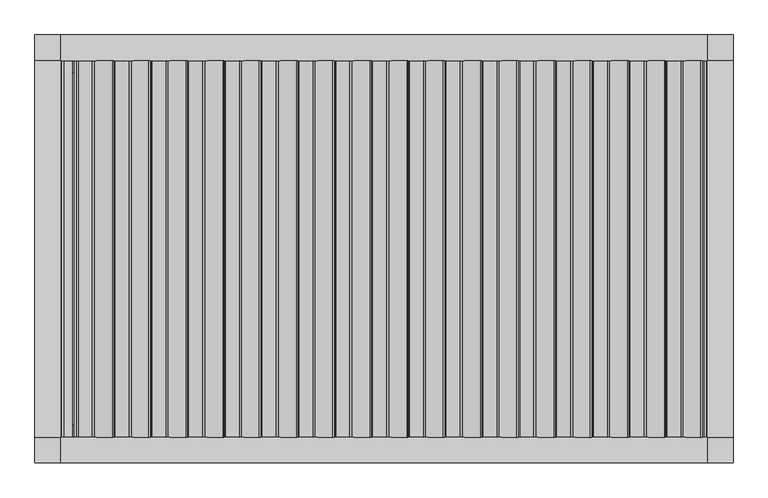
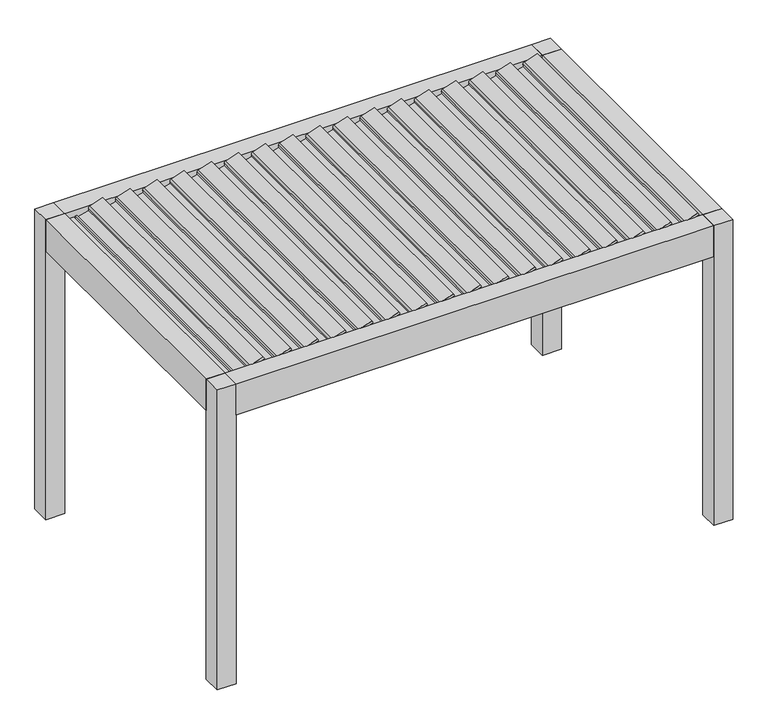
"""IFC4 building model written with IfcOpenShell, lengths in millimetres: proxy geometry, Renson_Camargue_Freestanding_Patio covers : Renson_Camargue_Freestanding_Patio covers."""

import ifcopenshell
import ifcopenshell.guid

model = None  # the IFC model being written
_history = None  # IfcOwnerHistory: only IFC2X3 demands one
_inside = {}  # id of a spatial element -> (the spatial element, [elements in it])
_under = {}  # id of a project, library or spatial element -> (it, [spatial elements below it])
_declared = {}  # id of a project -> (the project, [libraries it declares])
_typed = {}  # id of a type object -> (the type object, [elements of that type])
_made_of = {}  # id of a material, layer set ... -> (it, [elements and type objects made of it])


def new_model(schema):
    """Start an empty IFC model of exactly this schema.

    Asked for "IFC4X3", IfcOpenShell would pick the latest addendum, in which some entities
    have other attributes; the version numbers below select the first issue.
    IFC2X3 requires an IfcOwnerHistory on every rooted entity: one is made here for all.
    """
    global model, _history
    if schema == "IFC4X3":
        model = ifcopenshell.file(schema_version=(4, 3, 0, 0))
    else:
        model = ifcopenshell.file(schema=schema)
    _inside.clear()
    _under.clear()
    _declared.clear()
    _typed.clear()
    _made_of.clear()
    _history = None
    if model.schema == "IFC2X3":
        org = make("IfcOrganization", Name="unknown")
        user = make(
            "IfcPersonAndOrganization",
            ThePerson=make("IfcPerson", FamilyName="unknown"),
            TheOrganization=org,
        )
        app = make(
            "IfcApplication",
            ApplicationDeveloper=org,
            Version="unknown",
            ApplicationFullName="unknown",
            ApplicationIdentifier="unknown",
        )
        _history = make(
            "IfcOwnerHistory",
            OwningUser=user,
            OwningApplication=app,
            ChangeAction="ADDED",
            CreationDate=0,
        )
    return model


def make(cls, **values):
    """One entity of the class cls with the attributes given. An attribute that is None is left unset."""
    return model.create_entity(
        cls, **{name: value for name, value in values.items() if value is not None}
    )


def rooted(cls, **values):
    """An entity with a GlobalId (a new one), such as an element, a storey or a relation."""
    return make(cls, GlobalId=ifcopenshell.guid.new(), OwnerHistory=_history, **values)


def si_unit(unit_type, name, prefix=None):
    """IfcSIUnit, for example si_unit("LENGTHUNIT", "METRE", prefix="MILLI")."""
    return make("IfcSIUnit", UnitType=unit_type, Prefix=prefix, Name=name)


def assignment(units):
    """IfcUnitAssignment: the units of a project."""
    return None if units is None else make("IfcUnitAssignment", Units=units)


def point(xyz):
    """IfcCartesianPoint."""
    return None if xyz is None else make("IfcCartesianPoint", Coordinates=xyz)


def direction(xyz):
    """IfcDirection."""
    return None if xyz is None else make("IfcDirection", DirectionRatios=xyz)


def frame(location, z_axis=None, x_axis=None):
    """IfcAxis2Placement3D, a coordinate frame: its origin and axes. An axis left out is left unset."""
    return make(
        "IfcAxis2Placement3D",
        Location=point(location),
        Axis=direction(z_axis),
        RefDirection=direction(x_axis),
    )


def frame_2d(location, x_axis=None):
    """IfcAxis2Placement2D, a coordinate frame in the plane: its origin and x axis."""
    return make(
        "IfcAxis2Placement2D", Location=point(location), RefDirection=direction(x_axis)
    )


def origin():
    """The frame at (0, 0, 0) with its axes left unset."""
    return frame((0.0, 0.0, 0.0))


def origin_with_axes():
    """The frame at (0, 0, 0) with the z axis (0, 0, 1) and the x axis (1, 0, 0) written out."""
    return frame((0.0, 0.0, 0.0), z_axis=(0.0, 0.0, 1.0), x_axis=(1.0, 0.0, 0.0))


def place(relative_to, where):
    """IfcLocalPlacement: puts the frame where relative to a parent placement (None: the world)."""
    return make(
        "IfcLocalPlacement", PlacementRelTo=relative_to, RelativePlacement=where
    )


def context(
    kind, dimensions, precision=None, world=None, true_north=None, identifier=None
):
    """IfcGeometricRepresentationContext, for example the 3D "Model" context."""
    return make(
        "IfcGeometricRepresentationContext",
        ContextIdentifier=identifier,
        ContextType=kind,
        CoordinateSpaceDimension=dimensions,
        Precision=precision,
        WorldCoordinateSystem=world,
        TrueNorth=true_north,
    )


def project(units=None, contexts=None):
    """IfcProject with its units and contexts."""
    return rooted(
        "IfcProject",
        Name="project",
        RepresentationContexts=contexts,
        UnitsInContext=assignment(units),
    )


def spatial(cls, under=None, at=None, **own):
    """A site, building, storey or space (cls), placed at a placement, below another one or the project."""
    s = rooted(cls, ObjectPlacement=at, **own)
    if under is not None:
        _under.setdefault(under.id(), (under, []))[1].append(s)
    return s


def polyline(points):
    """IfcPolyline through the points."""
    return make("IfcPolyline", Points=[point(p) for p in points])


def circle_curve(where, radius):
    """IfcCircle in the frame where."""
    return make("IfcCircle", Position=where, Radius=radius)


def trimmed(basis, trim1, trim2, sense, master):
    """IfcTrimmedCurve: the piece of a basis curve between two trims."""
    return make(
        "IfcTrimmedCurve",
        BasisCurve=basis,
        Trim1=trim1,
        Trim2=trim2,
        SenseAgreement=sense,
        MasterRepresentation=master,
    )


def segment(curve, same_sense, transition):
    """IfcCompositeCurveSegment."""
    return make(
        "IfcCompositeCurveSegment",
        Transition=transition,
        SameSense=same_sense,
        ParentCurve=curve,
    )


def composite_curve(segments, self_intersect=None):
    """IfcCompositeCurve: segments joined end to end."""
    return make("IfcCompositeCurve", Segments=segments, SelfIntersect=self_intersect)


def outline(outer, holes=None, kind="AREA"):
    """IfcArbitraryClosedProfileDef: a profile drawn as a closed curve; with holes, ...WithVoids."""
    if holes is None:
        return make("IfcArbitraryClosedProfileDef", ProfileType=kind, OuterCurve=outer)
    return make(
        "IfcArbitraryProfileDefWithVoids",
        ProfileType=kind,
        OuterCurve=outer,
        InnerCurves=holes,
    )


def extrude(swept, where, along, depth):
    """IfcExtrudedAreaSolid: the profile swept, set in the frame where, extruded along a direction by depth."""
    return make(
        "IfcExtrudedAreaSolid",
        SweptArea=swept,
        Position=where,
        ExtrudedDirection=direction(along),
        Depth=depth,
    )


def shape(context_of_items, identifier, shape_type, items):
    """IfcShapeRepresentation: the items that make up one representation, for example the "Body"."""
    return make(
        "IfcShapeRepresentation",
        ContextOfItems=context_of_items,
        RepresentationIdentifier=identifier,
        RepresentationType=shape_type,
        Items=items,
    )


def source(mapping_origin, context_of_items, identifier, shape_type, items):
    """IfcRepresentationMap: a shape defined once, which mapped items show again and again."""
    return make(
        "IfcRepresentationMap",
        MappingOrigin=mapping_origin,
        MappedRepresentation=shape(context_of_items, identifier, shape_type, items),
    )


def transform(
    local_origin,
    x_axis=None,
    y_axis=None,
    z_axis=None,
    scale=None,
    scale2=None,
    scale3=None,
    uniform=True,
):
    """IfcCartesianTransformationOperator3D, or its non-uniform kind. x_axis, y_axis, z_axis: its Axis1, 2, 3."""
    if uniform:
        return make(
            "IfcCartesianTransformationOperator3D",
            Axis1=direction(x_axis),
            Axis2=direction(y_axis),
            LocalOrigin=point(local_origin),
            Scale=scale,
            Axis3=direction(z_axis),
        )
    return make(
        "IfcCartesianTransformationOperator3DnonUniform",
        Axis1=direction(x_axis),
        Axis2=direction(y_axis),
        LocalOrigin=point(local_origin),
        Scale=scale,
        Axis3=direction(z_axis),
        Scale2=scale2,
        Scale3=scale3,
    )


def mapped(mapping_source, mapping_target):
    """IfcMappedItem: shows the shape of a source again, moved by a transform."""
    return make(
        "IfcMappedItem", MappingSource=mapping_source, MappingTarget=mapping_target
    )


def made_of(thing, what):
    """Note that an element or type object is made of a material, layer set ...; save() writes the relation."""
    if what is not None:
        _made_of.setdefault(what.id(), (what, []))[1].append(thing)
    return thing


def element(
    cls,
    number,
    at=None,
    inside=None,
    cuts=None,
    type_object=None,
    material=None,
    context=None,
    identifier="Body",
    shape_type=None,
    held_by="IfcProductDefinitionShape",
    body=None,
    shapes=None,
    **own,
):
    """One element of the class cls, such as IfcWall. Its Tag is "e" and its number.

    at: its placement. inside: the storey or other place that contains it. cuts: it is an
    opening in that element (IfcRelVoidsElement). A single representation is given by context,
    identifier, shape_type and body (its items); several are given by shapes. held_by: the class
    of the entity that holds the representations. save() writes the other relations.
    """
    e = rooted(cls, Tag="e%d" % number, ObjectPlacement=at, **own)
    if body is not None:
        shapes = [shape(context, identifier, shape_type, body)]
    if shapes is not None:
        e.Representation = make(held_by, Representations=shapes)
    if inside is not None:
        _inside.setdefault(inside.id(), (inside, []))[1].append(e)
    if cuts is not None:
        rooted(
            "IfcRelVoidsElement", RelatingBuildingElement=cuts, RelatedOpeningElement=e
        )
    if type_object is not None:
        _typed.setdefault(type_object.id(), (type_object, []))[1].append(e)
    return made_of(e, material)


def aggregate(whole, parts):
    """IfcRelAggregates: a whole, such as a stair, and the parts it consists of."""
    return rooted("IfcRelAggregates", RelatingObject=whole, RelatedObjects=parts)


def save(model, path):
    """Write the relations noted so far, then the file.

    IfcRelAggregates (storeys below a building ...), IfcRelContainedInSpatialStructure (elements
    in a storey), IfcRelDefinesByType, IfcRelAssociatesMaterial and IfcRelDeclares: one each for
    every whole, place, type object, material and project.
    """
    for whole, parts in _under.values():
        aggregate(whole, parts)
    for where, things in _inside.values():
        rooted(
            "IfcRelContainedInSpatialStructure",
            RelatedElements=things,
            RelatingStructure=where,
        )
    for kind, things in _typed.values():
        rooted("IfcRelDefinesByType", RelatedObjects=things, RelatingType=kind)
    for what, things in _made_of.values():
        rooted("IfcRelAssociatesMaterial", RelatedObjects=things, RelatingMaterial=what)
    for by, libraries in _declared.values():
        rooted("IfcRelDeclares", RelatingContext=by, RelatedDefinitions=libraries)
    model.write(path)


def generic_models_edea96c8(model_context):
    return source(origin(), model_context, "Body", "SweptSolid", [
        extrude(outline(composite_curve([segment(polyline([(2484.4863486, 1622.3167619), (2511.83214, 1617.4949611), (2520.6331137, 1644.9891952), (2538.5732957, 1636.6235509), (2505.0004395, 1531.7419777)]), True, "CONTINUOUS"), segment(trimmed(circle_curve(frame_2d((2490.7145025, 1536.3149422)), 15.0), [point((2505.0004395, 1531.7419777))], [point((2489.4071663, 1521.3720218))], False, "CARTESIAN"), True, "CONTINUOUS"), segment(polyline([(2489.4071663, 1521.3720218), (2469.9552563, 1523.0738434), (2447.2475665, 1438.3275914), (2462.9650208, 1430.9984221), (2458.3022482, 1416.4319246), (2430.6272255, 1421.3117778), (2484.4863486, 1622.3167619)]), True, "CONTINUOUS")], self_intersect=False)), frame((0.0, -1100.0, 0.0), z_axis=(0.0, 1.0, 0.0), x_axis=(0.0, 0.0, 1.0)), (0.0, 0.0, 1.0), 2200.0),
        extrude(outline(composite_curve([segment(polyline([(2484.4863486, 1407.3059571), (2511.83214, 1402.4841563), (2520.6331137, 1429.9783904), (2538.5732957, 1421.6127462), (2505.0004395, 1316.731173)]), True, "CONTINUOUS"), segment(trimmed(circle_curve(frame_2d((2490.7145025, 1321.3041375)), 15.0), [point((2505.0004395, 1316.731173))], [point((2489.4071663, 1306.361217))], False, "CARTESIAN"), True, "CONTINUOUS"), segment(polyline([(2489.4071663, 1306.361217), (2469.9552563, 1308.0630386), (2447.2475665, 1223.3167866), (2462.9650208, 1215.9876173), (2458.3022482, 1201.4211198), (2430.6272255, 1206.300973), (2484.4863486, 1407.3059571)]), True, "CONTINUOUS")], self_intersect=False)), frame((0.0, -1100.0, 0.0), z_axis=(0.0, 1.0, 0.0), x_axis=(0.0, 0.0, 1.0)), (0.0, 0.0, 1.0), 2200.0),
        extrude(outline(composite_curve([segment(polyline([(2484.4863486, 1192.2951523), (2511.83214, 1187.4733515), (2520.6331137, 1214.9675857), (2538.5732957, 1206.6019414), (2505.0004395, 1101.7203682)]), True, "CONTINUOUS"), segment(trimmed(circle_curve(frame_2d((2490.7145025, 1106.2933327)), 15.0), [point((2505.0004395, 1101.7203682))], [point((2489.4071663, 1091.3504122))], False, "CARTESIAN"), True, "CONTINUOUS"), segment(polyline([(2489.4071663, 1091.3504122), (2469.9552563, 1093.0522338), (2447.2475665, 1008.3059819), (2462.9650208, 1000.9768125), (2458.3022482, 986.410315), (2430.6272255, 991.2901682), (2484.4863486, 1192.2951523)]), True, "CONTINUOUS")], self_intersect=False)), frame((0.0, -1100.0, 0.0), z_axis=(0.0, 1.0, 0.0), x_axis=(0.0, 0.0, 1.0)), (0.0, 0.0, 1.0), 2200.0),
        extrude(outline(composite_curve([segment(polyline([(2484.4863486, 977.2843475), (2511.83214, 972.4625467), (2520.6331137, 999.9567809), (2538.5732957, 991.5911366), (2505.0004395, 886.7095634)]), True, "CONTINUOUS"), segment(trimmed(circle_curve(frame_2d((2490.7145025, 891.2825279)), 15.0), [point((2505.0004395, 886.7095634))], [point((2489.4071663, 876.3396074))], False, "CARTESIAN"), True, "CONTINUOUS"), segment(polyline([(2489.4071663, 876.3396074), (2469.9552563, 878.041429), (2447.2475665, 793.2951771), (2462.9650208, 785.9660077), (2458.3022482, 771.3995103), (2430.6272255, 776.2793635), (2484.4863486, 977.2843475)]), True, "CONTINUOUS")], self_intersect=False)), frame((0.0, -1100.0, 0.0), z_axis=(0.0, 1.0, 0.0), x_axis=(0.0, 0.0, 1.0)), (0.0, 0.0, 1.0), 2200.0),
        extrude(outline(composite_curve([segment(polyline([(2484.4863486, 762.2735428), (2511.83214, 757.4517419), (2520.6331137, 784.9459761), (2538.5732957, 776.5803318), (2505.0004395, 671.6987586)]), True, "CONTINUOUS"), segment(trimmed(circle_curve(frame_2d((2490.7145025, 676.2717231)), 15.0), [point((2505.0004395, 671.6987586))], [point((2489.4071663, 661.3288026))], False, "CARTESIAN"), True, "CONTINUOUS"), segment(polyline([(2489.4071663, 661.3288026), (2469.9552563, 663.0306242), (2447.2475665, 578.2843723), (2462.9650208, 570.955203), (2458.3022482, 556.3887055), (2430.6272255, 561.2685587), (2484.4863486, 762.2735428)]), True, "CONTINUOUS")], self_intersect=False)), frame((0.0, -1100.0, 0.0), z_axis=(0.0, 1.0, 0.0), x_axis=(0.0, 0.0, 1.0)), (0.0, 0.0, 1.0), 2200.0),
        extrude(outline(composite_curve([segment(polyline([(2484.4863486, 547.262738), (2511.83214, 542.4409372), (2520.6331137, 569.9351713), (2538.5732957, 561.569527), (2505.0004395, 456.6879538)]), True, "CONTINUOUS"), segment(trimmed(circle_curve(frame_2d((2490.7145025, 461.2609183)), 15.0), [point((2505.0004395, 456.6879538))], [point((2489.4071663, 446.3179979))], False, "CARTESIAN"), True, "CONTINUOUS"), segment(polyline([(2489.4071663, 446.3179979), (2469.9552563, 448.0198195), (2447.2475665, 363.2735675), (2462.9650208, 355.9443982), (2458.3022482, 341.3779007), (2430.6272255, 346.2577539), (2484.4863486, 547.262738)]), True, "CONTINUOUS")], self_intersect=False)), frame((0.0, -1100.0, 0.0), z_axis=(0.0, 1.0, 0.0), x_axis=(0.0, 0.0, 1.0)), (0.0, 0.0, 1.0), 2200.0),
        extrude(outline(composite_curve([segment(polyline([(2484.4863486, 332.2519332), (2511.83214, 327.4301324), (2520.6331137, 354.9243665), (2538.5732957, 346.5587222), (2505.0004395, 241.6771491)]), True, "CONTINUOUS"), segment(trimmed(circle_curve(frame_2d((2490.7145025, 246.2501135)), 15.0), [point((2505.0004395, 241.6771491))], [point((2489.4071663, 231.3071931))], False, "CARTESIAN"), True, "CONTINUOUS"), segment(polyline([(2489.4071663, 231.3071931), (2469.9552563, 233.0090147), (2447.2475665, 148.2627627), (2462.9650208, 140.9335934), (2458.3022482, 126.3670959), (2430.6272255, 131.2469491), (2484.4863486, 332.2519332)]), True, "CONTINUOUS")], self_intersect=False)), frame((0.0, -1100.0, 0.0), z_axis=(0.0, 1.0, 0.0), x_axis=(0.0, 0.0, 1.0)), (0.0, 0.0, 1.0), 2200.0),
        extrude(outline(composite_curve([segment(polyline([(2484.4863486, 117.2411284), (2511.83214, 112.4193276), (2520.6331137, 139.9135617), (2538.5732957, 131.5479175), (2505.0004395, 26.6663443)]), True, "CONTINUOUS"), segment(trimmed(circle_curve(frame_2d((2490.7145025, 31.2393088)), 15.0), [point((2505.0004395, 26.6663443))], [point((2489.4071663, 16.2963883))], False, "CARTESIAN"), True, "CONTINUOUS"), segment(polyline([(2489.4071663, 16.2963883), (2469.9552563, 17.9982099), (2447.2475665, -66.7480421), (2462.9650208, -74.0772114), (2458.3022482, -88.6437089), (2430.6272255, -83.7638557), (2484.4863486, 117.2411284)]), True, "CONTINUOUS")], self_intersect=False)), frame((0.0, -1100.0, 0.0), z_axis=(0.0, 1.0, 0.0), x_axis=(0.0, 0.0, 1.0)), (0.0, 0.0, 1.0), 2200.0),
        extrude(outline(composite_curve([segment(polyline([(2484.4863486, -97.7696764), (2511.83214, -102.5914772), (2520.6331137, -75.097243), (2538.5732957, -83.4628873), (2505.0004395, -188.3444605)]), True, "CONTINUOUS"), segment(trimmed(circle_curve(frame_2d((2490.7145025, -183.771496)), 15.0), [point((2505.0004395, -188.3444605))], [point((2489.4071663, -198.7144165))], False, "CARTESIAN"), True, "CONTINUOUS"), segment(polyline([(2489.4071663, -198.7144165), (2469.9552563, -197.0125949), (2447.2475665, -281.7588468), (2462.9650208, -289.0880162), (2458.3022482, -303.6545136), (2430.6272255, -298.7746604), (2484.4863486, -97.7696764)]), True, "CONTINUOUS")], self_intersect=False)), frame((0.0, -1100.0, 0.0), z_axis=(0.0, 1.0, 0.0), x_axis=(0.0, 0.0, 1.0)), (0.0, 0.0, 1.0), 2200.0),
        extrude(outline(composite_curve([segment(polyline([(2484.4863486, -312.7804811), (2511.83214, -317.602282), (2520.6331137, -290.1080478), (2538.5732957, -298.4736921), (2505.0004395, -403.3552653)]), True, "CONTINUOUS"), segment(trimmed(circle_curve(frame_2d((2490.7145025, -398.7823008)), 15.0), [point((2505.0004395, -403.3552653))], [point((2489.4071663, -413.7252213))], False, "CARTESIAN"), True, "CONTINUOUS"), segment(polyline([(2489.4071663, -413.7252213), (2469.9552563, -412.0233997), (2447.2475665, -496.7696516), (2462.9650208, -504.0988209), (2458.3022482, -518.6653184), (2430.6272255, -513.7854652), (2484.4863486, -312.7804811)]), True, "CONTINUOUS")], self_intersect=False)), frame((0.0, -1100.0, 0.0), z_axis=(0.0, 1.0, 0.0), x_axis=(0.0, 0.0, 1.0)), (0.0, 0.0, 1.0), 2200.0),
        extrude(outline(composite_curve([segment(polyline([(2484.4863486, -527.7912859), (2511.83214, -532.6130867), (2520.6331137, -505.1188526), (2538.5732957, -513.4844969), (2505.0004395, -618.3660701)]), True, "CONTINUOUS"), segment(trimmed(circle_curve(frame_2d((2490.7145025, -613.7931056)), 15.0), [point((2505.0004395, -618.3660701))], [point((2489.4071663, -628.7360261))], False, "CARTESIAN"), True, "CONTINUOUS"), segment(polyline([(2489.4071663, -628.7360261), (2469.9552563, -627.0342044), (2447.2475665, -711.7804564), (2462.9650208, -719.1096257), (2458.3022482, -733.6761232), (2430.6272255, -728.79627), (2484.4863486, -527.7912859)]), True, "CONTINUOUS")], self_intersect=False)), frame((0.0, -1100.0, 0.0), z_axis=(0.0, 1.0, 0.0), x_axis=(0.0, 0.0, 1.0)), (0.0, 0.0, 1.0), 2200.0),
        extrude(outline(composite_curve([segment(polyline([(2484.4863486, -742.8020907), (2511.83214, -747.6238915), (2520.6331137, -720.1296574), (2538.5732957, -728.4953017), (2505.0004395, -833.3768749)]), True, "CONTINUOUS"), segment(trimmed(circle_curve(frame_2d((2490.7145025, -828.8039104)), 15.0), [point((2505.0004395, -833.3768749))], [point((2489.4071663, -843.7468308))], False, "CARTESIAN"), True, "CONTINUOUS"), segment(polyline([(2489.4071663, -843.7468308), (2469.9552563, -842.0450092), (2447.2475665, -926.7912612), (2462.9650208, -934.1204305), (2458.3022482, -948.686928), (2430.6272255, -943.8070748), (2484.4863486, -742.8020907)]), True, "CONTINUOUS")], self_intersect=False)), frame((0.0, -1100.0, 0.0), z_axis=(0.0, 1.0, 0.0), x_axis=(0.0, 0.0, 1.0)), (0.0, 0.0, 1.0), 2200.0),
        extrude(outline(composite_curve([segment(polyline([(2484.4863486, -957.8128955), (2511.83214, -962.6346963), (2520.6331137, -935.1404622), (2538.5732957, -943.5061064), (2505.0004395, -1048.3876796)]), True, "CONTINUOUS"), segment(trimmed(circle_curve(frame_2d((2490.7145025, -1043.8147151)), 15.0), [point((2505.0004395, -1048.3876796))], [point((2489.4071663, -1058.7576356))], False, "CARTESIAN"), True, "CONTINUOUS"), segment(polyline([(2489.4071663, -1058.7576356), (2469.9552563, -1057.055814), (2447.2475665, -1141.802066), (2462.9650208, -1149.1312353), (2458.3022482, -1163.6977328), (2430.6272255, -1158.8178796), (2484.4863486, -957.8128955)]), True, "CONTINUOUS")], self_intersect=False)), frame((0.0, -1100.0, 0.0), z_axis=(0.0, 1.0, 0.0), x_axis=(0.0, 0.0, 1.0)), (0.0, 0.0, 1.0), 2200.0),
        extrude(outline(composite_curve([segment(polyline([(2484.4863486, -1172.8237003), (2511.83214, -1177.6455011), (2520.6331137, -1150.1512669), (2538.5732957, -1158.5169112), (2505.0004395, -1263.3984844)]), True, "CONTINUOUS"), segment(trimmed(circle_curve(frame_2d((2490.7145025, -1258.8255199)), 15.0), [point((2505.0004395, -1263.3984844))], [point((2489.4071663, -1273.7684404))], False, "CARTESIAN"), True, "CONTINUOUS"), segment(polyline([(2489.4071663, -1273.7684404), (2469.9552563, -1272.0666188), (2447.2475665, -1356.8128707), (2462.9650208, -1364.1420401), (2458.3022482, -1378.7085376), (2430.6272255, -1373.8286844), (2484.4863486, -1172.8237003)]), True, "CONTINUOUS")], self_intersect=False)), frame((0.0, -1100.0, 0.0), z_axis=(0.0, 1.0, 0.0), x_axis=(0.0, 0.0, 1.0)), (0.0, 0.0, 1.0), 2200.0),
        extrude(outline(composite_curve([segment(polyline([(2484.4863486, -1387.8345051), (2511.83214, -1392.6563059), (2520.6331137, -1365.1620717), (2538.5732957, -1373.527716), (2505.0004395, -1478.4092892)]), True, "CONTINUOUS"), segment(trimmed(circle_curve(frame_2d((2490.7145025, -1473.8363247)), 15.0), [point((2505.0004395, -1478.4092892))], [point((2489.4071663, -1488.7792452))], False, "CARTESIAN"), True, "CONTINUOUS"), segment(polyline([(2489.4071663, -1488.7792452), (2469.9552563, -1487.0774236), (2447.2475665, -1571.8236755), (2462.9650208, -1579.1528448), (2458.3022482, -1593.7193423), (2430.6272255, -1588.8394891), (2484.4863486, -1387.8345051)]), True, "CONTINUOUS")], self_intersect=False)), frame((0.0, -1100.0, 0.0), z_axis=(0.0, 1.0, 0.0), x_axis=(0.0, 0.0, 1.0)), (0.0, 0.0, 1.0), 2200.0),
        extrude(outline(composite_curve([segment(polyline([(2484.4863486, 1837.3275667), (2511.83214, 1832.5057659), (2520.6331137, 1860.0), (2538.5732957, 1851.6343557), (2505.0004395, 1746.7527825)]), True, "CONTINUOUS"), segment(trimmed(circle_curve(frame_2d((2490.7145025, 1751.325747)), 15.0), [point((2505.0004395, 1746.7527825))], [point((2489.4071663, 1736.3828265))], False, "CARTESIAN"), True, "CONTINUOUS"), segment(polyline([(2489.4071663, 1736.3828265), (2469.9552563, 1738.0846482), (2447.2475665, 1653.3383962), (2462.9650208, 1646.0092269), (2458.3022482, 1631.4427294), (2430.6272255, 1636.3225826), (2484.4863486, 1837.3275667)]), True, "CONTINUOUS")], self_intersect=False)), frame((0.0, -1100.0, 0.0), z_axis=(0.0, 1.0, 0.0), x_axis=(0.0, 0.0, 1.0)), (0.0, 0.0, 1.0), 2200.0),
        extrude(outline(composite_curve([segment(polyline([(2484.4863486, -1602.8453098), (2511.83214, -1607.6671107), (2520.6331137, -1580.1728765), (2538.5732957, -1588.5385208), (2505.0004395, -1693.420094)]), True, "CONTINUOUS"), segment(trimmed(circle_curve(frame_2d((2490.7145025, -1688.8471295)), 15.0), [point((2505.0004395, -1693.420094))], [point((2489.4071663, -1703.79005))], False, "CARTESIAN"), True, "CONTINUOUS"), segment(polyline([(2489.4071663, -1703.79005), (2469.9552563, -1702.0882283), (2447.2475665, -1786.8344803), (2462.9650208, -1794.1636496), (2458.3022482, -1808.7301471), (2430.6272255, -1803.8502939), (2484.4863486, -1602.8453098)]), True, "CONTINUOUS")], self_intersect=False)), frame((0.0, -1100.0, 0.0), z_axis=(0.0, 1.0, 0.0), x_axis=(0.0, 0.0, 1.0)), (0.0, 0.0, 1.0), 2200.0),
        extrude(outline(polyline([(2441.6559373, -1890.0), (2441.6559373, -1825.0), (2455.6555802, -1821.2487113), (2455.6555802, -1869.5940945), (2471.400763, -1885.0), (2479.2449277, -1885.0), (2479.6823598, -1890.0), (2441.6559373, -1890.0)])), frame((0.0, -1100.0, 0.0), z_axis=(0.0, 1.0, 0.0), x_axis=(0.0, 0.0, 1.0)), (0.0, 0.0, 1.0), 2200.0),
        extrude(outline(polyline([(-1890.0, -1100.0), (-2040.0, -1100.0), (-2040.0, 1100.0), (-1890.0, 1100.0), (-1890.0, -1100.0)])), frame((0.0, 0.0, 2250.0), z_axis=(0.0, 0.0, 1.0), x_axis=(1.0, 0.0, 0.0)), (0.0, 0.0, 1.0), 260.0),
        extrude(outline(polyline([(2510.0, 2040.0), (2510.0, 1890.0), (2479.6904658, 1890.0), (2479.2449277, 1885.0), (2471.400763, 1885.0), (2455.6555802, 1869.2544156), (2455.6555802, 1859.9090324), (2441.6559373, 1863.6603211), (2441.6559373, 1890.0), (2250.0, 1890.0), (2250.0, 2040.0), (2510.0, 2040.0)])), frame((0.0, -1100.0, 0.0), z_axis=(0.0, 1.0, 0.0), x_axis=(0.0, 0.0, 1.0)), (0.0, 0.0, 1.0), 2200.0),
        extrude(outline(polyline([(-1100.0, 2510.0), (-1100.0, 2322.0), (-1030.0000001, 2322.0), (-1030.0000001, 2250.0), (-1250.0, 2250.0), (-1250.0, 2510.0), (-1100.0, 2510.0)])), frame((-1890.0, 0.0, 0.0), z_axis=(1.0, 0.0, 0.0), x_axis=(0.0, 1.0, 0.0)), (0.0, 0.0, 1.0), 3780.0),
        extrude(outline(polyline([(1250.0, 2250.0), (1030.0000001, 2250.0), (1030.0000001, 2322.0), (1100.0, 2322.0), (1100.0, 2510.0), (1250.0, 2510.0), (1250.0, 2250.0)])), frame((-1890.0, 0.0, 0.0), z_axis=(1.0, 0.0, 0.0), x_axis=(0.0, 1.0, 0.0)), (0.0, 0.0, 1.0), 3780.0),
        extrude(outline(polyline([(-1890.0, 1250.0), (-1890.0, 1100.0), (-2040.0, 1100.0), (-2040.0, 1250.0), (-1890.0, 1250.0)])), origin_with_axes(), (0.0, 0.0, 1.0), 2510.0),
        extrude(outline(polyline([(2040.0, 1250.0), (2040.0, 1100.0), (1890.0, 1100.0), (1890.0, 1250.0), (2040.0, 1250.0)])), origin_with_axes(), (0.0, 0.0, 1.0), 2510.0),
        extrude(outline(polyline([(2040.0, -1100.0), (2040.0, -1250.0), (1890.0, -1250.0), (1890.0, -1100.0), (2040.0, -1100.0)])), origin_with_axes(), (0.0, 0.0, 1.0), 2510.0),
        extrude(outline(polyline([(-1890.0, -1100.0), (-1890.0, -1250.0), (-2040.0, -1250.0), (-2040.0, -1100.0), (-1890.0, -1100.0)])), origin_with_axes(), (0.0, 0.0, 1.0), 2510.0),
    ])


if __name__ == "__main__":
    model = new_model("IFC4")
    model_context = context("Model", 3, world=origin())
    ifc_project = project(units=[si_unit("LENGTHUNIT", "METRE", prefix="MILLI")], contexts=[model_context])
    site = spatial("IfcSite", under=ifc_project)
    building = spatial("IfcBuilding", under=site)
    placement = place(None, origin())
    generic_models_shape = generic_models_edea96c8(model_context)
    element("IfcBuildingElementProxy", 1, Name="Renson_Camargue_Freestanding_Patio covers : Renson_Camargue_Freestanding_Patio covers", ObjectType="Renson_Camargue_Freestanding_Patio covers : Renson_Camargue_Freestanding_Patio covers", at=placement, inside=building, context=model_context, shape_type="MappedRepresentation", body=[
        mapped(generic_models_shape, transform((0.0, 0.0, 0.0), x_axis=(1.0, 0.0, 0.0), y_axis=(0.0, 1.0, 0.0), z_axis=(0.0, 0.0, 1.0))),
    ])
    save(model, "model.ifc")
